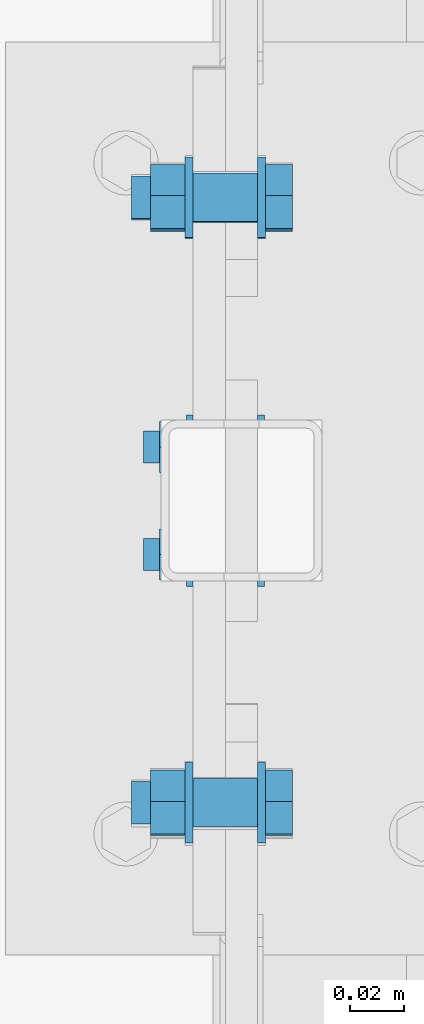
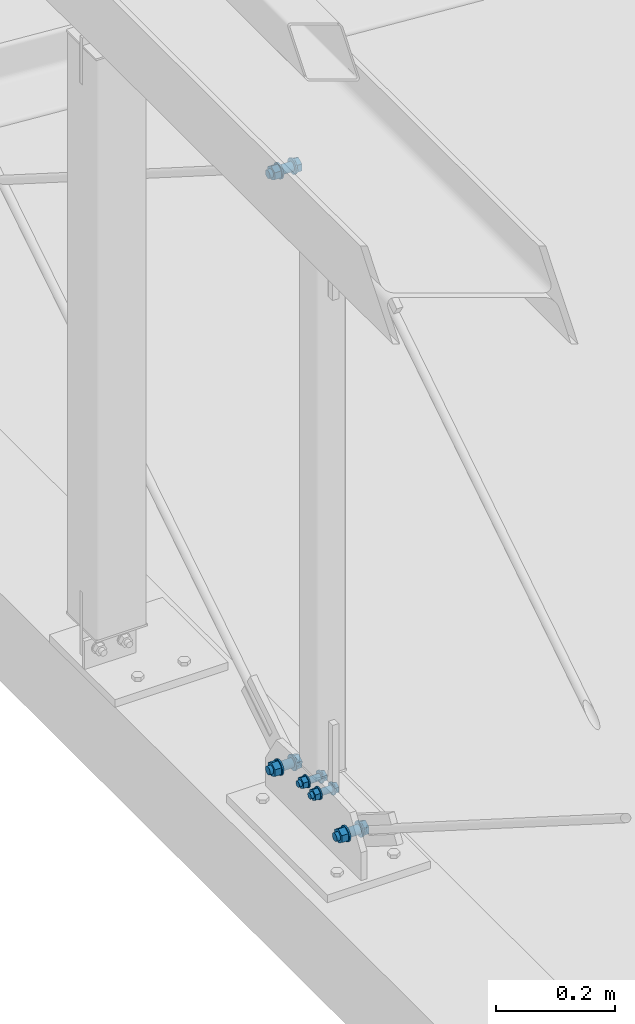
# One storey, part 232 of 271: 4 mechanical fasteners, 4 elements without a shape of their own.
"""IFC2X3 building model written with IfcOpenShell, lengths in millimetres."""

from ifc_helpers import new_model, si_unit, frame, origin_with_axes, origin_2d_with_axis, place, context, subcontext, project, spatial, polyline, circle, outline, extrude, source, transform, mapped, material, type_object, element, aggregate, save


model = new_model("IFC2X3")

# Units and contexts
model_context = context("Model", 3, precision=1e-05, world=origin_with_axes())
body_context = subcontext(model_context, "Body", "Model", "MODEL_VIEW")
ifc_project = project(units=[si_unit("LENGTHUNIT", "METRE", prefix="MILLI"), si_unit("AREAUNIT", "SQUARE_METRE"), si_unit("VOLUMEUNIT", "CUBIC_METRE"), si_unit("MASSUNIT", "GRAM", prefix="KILO"), si_unit("TIMEUNIT", "SECOND"), si_unit("PLANEANGLEUNIT", "RADIAN"), si_unit("SOLIDANGLEUNIT", "STERADIAN"), si_unit("THERMODYNAMICTEMPERATUREUNIT", "DEGREE_CELSIUS"), si_unit("LUMINOUSINTENSITYUNIT", "LUMEN")], contexts=[model_context])

# Site, building, storey
site_placement = place(None, origin_with_axes())
site = spatial("IfcSite", under=ifc_project, at=site_placement, Name="Undefined", CompositionType="ELEMENT")
building_placement = place(site_placement, origin_with_axes())
building = spatial("IfcBuilding", under=site, at=building_placement, Name="Undefined", CompositionType="ELEMENT")
storey_placement = place(building_placement, origin_with_axes())
storey = spatial("IfcBuildingStorey", under=building, at=storey_placement, Name="Undefined", CompositionType="ELEMENT", Elevation=0.0)

# Assembly, mechanical fastener
assembly_1_placement = place(storey_placement, origin_with_axes())
assembly_1 = element("IfcElementAssembly", 1, at=assembly_1_placement, inside=storey, AssemblyPlace="NOTDEFINED", PredefinedType="RIGID_FRAME")
ifc_material = material(Name="Undefined")
mechanical_fastener_type = type_object("IfcMechanicalFastenerType", Name="Bolt assembly")
shared_shape_1 = source(origin_with_axes(), body_context, "Body", "SweptSolid", [
    extrude(circle(Radius=9.0, at=origin_2d_with_axis()), frame((0.0, -6.1, 0.0), z_axis=(0.0, 1.0, 0.0), x_axis=(1.0, 0.0, 0.0)), (0.0, 0.0, 1.0), 12.1),
    extrude(circle(Radius=9.0, at=origin_2d_with_axis()), frame((0.0, -17.9, 0.0), z_axis=(0.0, 1.0, 0.0), x_axis=(1.0, 0.0, 0.0)), (0.0, 0.0, 1.0), 12.0),
    extrude(outline(polyline([(13.85640646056, 0.0), (6.92820323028, 12.0000000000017), (-6.92820323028, 12.0000000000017), (-13.85640646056, 0.0), (-6.92820323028, -12.0000000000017), (6.92820323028, -12.0000000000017), (13.85640646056, 0.0)])), frame((0.0, -31.0, 0.0), z_axis=(0.0, 1.0, 0.0), x_axis=(1.0, 0.0, 0.0)), (0.0, 0.0, 1.0), 10.0),
    extrude(circle(Radius=8.0, at=origin_2d_with_axis()), frame((0.0, -21.0, 0.0), z_axis=(0.0, 1.0, 0.0), x_axis=(1.0, 0.0, 0.0)), (0.0, 0.0, 1.0), 50.0),
    extrude(circle(Radius=15.0, at=origin_2d_with_axis()), frame((0.0, -21.0, 0.0), z_axis=(0.0, 1.0, 0.0), x_axis=(1.0, 0.0, 0.0)), (0.0, 0.0, 1.0), 3.0),
    extrude(circle(Radius=15.0, at=origin_2d_with_axis()), frame((0.0, 6.0, 0.0), z_axis=(0.0, 1.0, 0.0), x_axis=(1.0, 0.0, 0.0)), (0.0, 0.0, 1.0), 3.0),
    extrude(outline(polyline([(13.85640646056, 0.0), (6.92820323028, 12.0000000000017), (-6.92820323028, 12.0000000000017), (-13.85640646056, 0.0), (-6.92820323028, -12.0000000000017), (6.92820323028, -12.0000000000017), (13.85640646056, 0.0)])), frame((0.0, 9.0, 0.0), z_axis=(0.0, 1.0, 0.0), x_axis=(1.0, 0.0, 0.0)), (0.0, 0.0, 1.0), 13.0),
])
mechanical_fastener_1_placement = place(assembly_1_placement, frame((87.0000000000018, 2066.65830803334, 68.2711914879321), z_axis=(0.0, -0.533166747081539, -0.846010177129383), x_axis=(0.0, -0.846010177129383, 0.533166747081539)))
mechanical_fastener_1 = element("IfcMechanicalFastener", 2, at=mechanical_fastener_1_placement, type_object=mechanical_fastener_type, material=ifc_material, Name="Bolt assembly", NominalDiameter=16.0, NominalLength=50.0, context=body_context, shape_type="MappedRepresentation", body=[
    mapped(shared_shape_1, transform((0.0, 0.0, 0.0))),
])
aggregate(assembly_1, [mechanical_fastener_1])

assembly_2_placement = place(storey_placement, origin_with_axes())
assembly_2 = element("IfcElementAssembly", 3, at=assembly_2_placement, inside=storey, AssemblyPlace="NOTDEFINED", PredefinedType="RIGID_FRAME")
mechanical_fastener_2_placement = place(assembly_2_placement, frame((87.0000000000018, 2291.7287978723, 68.2711945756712), z_axis=(0.0, -0.533166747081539, 0.846010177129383), x_axis=(0.0, 0.846010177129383, 0.533166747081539)))
mechanical_fastener_2 = element("IfcMechanicalFastener", 4, at=mechanical_fastener_2_placement, type_object=mechanical_fastener_type, material=ifc_material, Name="Bolt assembly", NominalDiameter=16.0, NominalLength=50.0, context=body_context, shape_type="MappedRepresentation", body=[
    mapped(shared_shape_1, transform((0.0, 0.0, 0.0))),
])
aggregate(assembly_2, [mechanical_fastener_2])

assembly_3_placement = place(storey_placement, origin_with_axes())
assembly_3 = element("IfcElementAssembly", 5, at=assembly_3_placement, inside=storey, AssemblyPlace="NOTDEFINED", PredefinedType="RIGID_FRAME")
mechanical_fastener_3_placement = place(assembly_3_placement, frame((87.0, 2292.21851976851, 1292.7535527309), z_axis=(0.0, 0.535126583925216, 0.84477188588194), x_axis=(0.0, 0.84477188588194, -0.535126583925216)))
mechanical_fastener_3 = element("IfcMechanicalFastener", 6, at=mechanical_fastener_3_placement, type_object=mechanical_fastener_type, material=ifc_material, Name="Bolt assembly", NominalDiameter=16.0, NominalLength=50.0, context=body_context, shape_type="MappedRepresentation", body=[
    mapped(shared_shape_1, transform((0.0, 0.0, 0.0))),
])
aggregate(assembly_3, [mechanical_fastener_3])

assembly_4_placement = place(storey_placement, origin_with_axes())
assembly_4 = element("IfcElementAssembly", 7, at=assembly_4_placement, inside=storey, AssemblyPlace="NOTDEFINED", PredefinedType="RIGID_FRAME")
shared_shape_2 = source(origin_with_axes(), body_context, "Body", "SweptSolid", [
    extrude(circle(Radius=6.5, at=origin_2d_with_axis()), frame((0.0, -6.1, 0.0), z_axis=(0.0, 1.0, 0.0), x_axis=(1.0, 0.0, 0.0)), (0.0, 0.0, 1.0), 12.1),
    extrude(circle(Radius=6.5, at=origin_2d_with_axis()), frame((0.0, -17.9, 0.0), z_axis=(0.0, 1.0, 0.0), x_axis=(1.0, 0.0, 0.0)), (0.0, 0.0, 1.0), 12.0),
    extrude(outline(polyline([(10.39230484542, 0.0), (5.19615242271, 9.00000000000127), (-5.19615242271, 9.00000000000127), (-10.39230484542, 0.0), (-5.19615242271, -9.00000000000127), (5.19615242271, -9.00000000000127), (10.39230484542, 0.0)])), frame((0.0, -28.0, 0.0), z_axis=(0.0, 1.0, 0.0), x_axis=(1.0, 0.0, 0.0)), (0.0, 0.0, 1.0), 7.5),
    extrude(circle(Radius=6.0, at=origin_2d_with_axis()), frame((0.0, -20.5, 0.0), z_axis=(0.0, 1.0, 0.0), x_axis=(1.0, 0.0, 0.0)), (0.0, 0.0, 1.0), 45.0),
    extrude(circle(Radius=12.0, at=origin_2d_with_axis()), frame((0.0, -20.5, 0.0), z_axis=(0.0, 1.0, 0.0), x_axis=(1.0, 0.0, 0.0)), (0.0, 0.0, 1.0), 2.5),
    extrude(circle(Radius=12.0, at=origin_2d_with_axis()), frame((0.0, 6.0, 0.0), z_axis=(0.0, 1.0, 0.0), x_axis=(1.0, 0.0, 0.0)), (0.0, 0.0, 1.0), 2.5),
    extrude(outline(polyline([(10.96965511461, 0.0), (5.484827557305, 9.50000000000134), (-5.484827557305, 9.50000000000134), (-10.96965511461, 0.0), (-5.484827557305, -9.50000000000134), (5.484827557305, -9.50000000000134), (10.96965511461, 0.0)])), frame((0.0, 8.5, 0.0), z_axis=(0.0, 1.0, 0.0), x_axis=(1.0, 0.0, 0.0)), (0.0, 0.0, 1.0), 10.0),
])
mechanical_fastener_4_placement = place(assembly_4_placement, frame((87.0000000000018, 2179.19355050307, 95.2313232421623), z_axis=(0.0, -1.0, 0.0), x_axis=(0.0, 0.0, 1.0)))
mechanical_fastener_4 = element("IfcMechanicalFastener", 8, at=mechanical_fastener_4_placement, type_object=mechanical_fastener_type, material=ifc_material, Name="Bolt assembly", NominalDiameter=12.0, NominalLength=45.0, context=body_context, shape_type="MappedRepresentation", body=[
    mapped(shared_shape_2, transform((0.0, 0.0, -20.0))),
    mapped(shared_shape_2, transform((0.0, 0.0, 20.0))),
])
aggregate(assembly_4, [mechanical_fastener_4])

save(model, "model.ifc")
